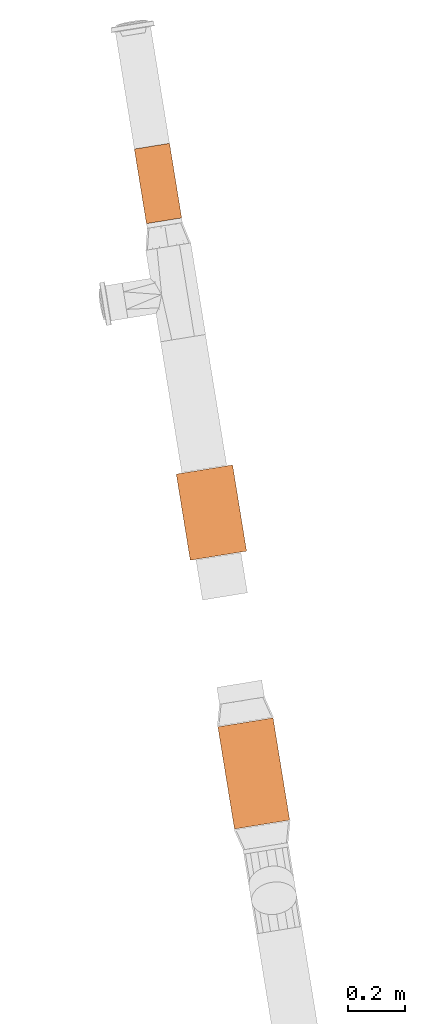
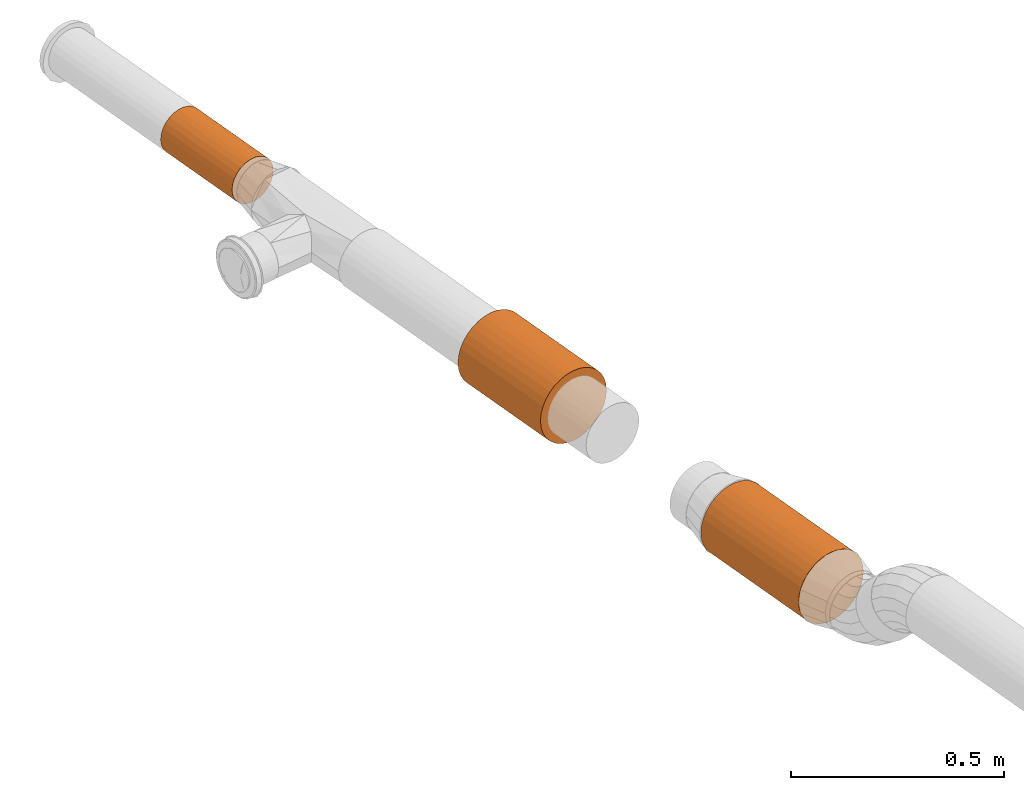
# One storey, part 6 of 6: 3 proxies.
"""IFC2X3 building model written with IfcOpenShell, lengths in millimetres."""

from ifc_helpers import new_model, entity, si_unit, converted_unit, derived_unit, direction, frame, frame_2d, origin, origin_with_axes, place, context, subcontext, project, spatial, circle, extrude, source, transform, mapped, material, type_object, element, save


model = new_model("IFC2X3")

# Units and contexts
plan_context = context("Plan", 3, precision=1e-05, world=origin_with_axes())
model_context = context("Model", 3, precision=0.01, world=origin(), true_north=direction((6.12323399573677e-17, 1.0)))
body_context = subcontext(model_context, "Body", "Model", "MODEL_VIEW")
ifc_project = project(units=[converted_unit("PLANEANGLEUNIT", "DEGREE", entity("IfcPositiveLengthMeasure", 0.0174532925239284), si_unit("PLANEANGLEUNIT", "RADIAN"), dimensions=[0, 0, 0, 0, 0, 0, 0]), si_unit("AREAUNIT", "SQUARE_METRE"), si_unit("LENGTHUNIT", "METRE", prefix="MILLI"), si_unit("MASSUNIT", "GRAM", prefix="KILO"), si_unit("POWERUNIT", "WATT"), si_unit("PRESSUREUNIT", "PASCAL", prefix="KILO"), si_unit("FORCEUNIT", "NEWTON", prefix="KILO"), si_unit("ELECTRICVOLTAGEUNIT", "VOLT"), si_unit("ELECTRICCURRENTUNIT", "AMPERE"), si_unit("THERMODYNAMICTEMPERATUREUNIT", "DEGREE_CELSIUS"), si_unit("TIMEUNIT", "SECOND"), si_unit("VOLUMEUNIT", "CUBIC_METRE"), derived_unit("LINEARVELOCITYUNIT", [(si_unit("LENGTHUNIT", "METRE"), 1), (si_unit("TIMEUNIT", "SECOND"), -1)]), derived_unit("VOLUMETRICFLOWRATEUNIT", [(si_unit("VOLUMEUNIT", "CUBIC_METRE"), 1), (si_unit("TIMEUNIT", "SECOND"), -1)]), derived_unit("THERMALTRANSMITTANCEUNIT", [(si_unit("POWERUNIT", "WATT"), 1), (si_unit("THERMODYNAMICTEMPERATUREUNIT", "KELVIN"), -1), (si_unit("AREAUNIT", "SQUARE_METRE"), -1)]), derived_unit("SOUNDPRESSUREUNIT", [(si_unit("PRESSUREUNIT", "PASCAL"), 1)])], contexts=[model_context, plan_context])

# Site, building, storey
site_placement = place(None, frame((-0.00071070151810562, 0.00438415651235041, 0.0), z_axis=(0.0, 0.0, 1.0), x_axis=(-0.160236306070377, 0.987078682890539, 0.0)))
site = spatial("IfcSite", under=ifc_project, at=site_placement, Name="Default", CompositionType="ELEMENT")
building_placement = place(site_placement, origin_with_axes())
building = spatial("IfcBuilding", under=site, at=building_placement, CompositionType="ELEMENT")
storey_placement = place(building_placement, frame((0.0, 0.0, 55630.0), z_axis=(0.0, 0.0, 1.0), x_axis=(1.0, 0.0, 0.0)))
storey = spatial("IfcBuildingStorey", under=building, at=storey_placement, Name="Nivå E", CompositionType="ELEMENT", Elevation=55630.0)

# Proxies
ifc_material = material(Name="<Unnamed>")
building_element_proxy_type_1 = type_object("IfcBuildingElementProxyType", Name="BRANNSPJELD -  - SZ011T:BRANNSPJELD -C-EI60-125 - SZ011T", PredefinedType="NOTDEFINED", material=ifc_material)
shared_shape_1 = source(origin(), body_context, "Body", "SweptSolid", [
    extrude(circle(Radius=62.4999999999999, at=frame_2d((3.44740902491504e-15, -1.00971535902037e-13), x_axis=(1.0, 0.0))), frame((-132.5, 0.0, 0.0), z_axis=(1.0, 0.0, 0.0), x_axis=(0.0, 1.0, 0.0)), (0.0, 0.0, 1.0), 265.0),
])
proxy_1_placement = place(storey_placement, frame((768932.619644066, -504762.771931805, 2400.0), z_axis=(0.0, 0.0, 1.0), x_axis=(-1.0, 0.0, 0.0)))
element("IfcBuildingElementProxy", 1, at=proxy_1_placement, inside=storey, type_object=building_element_proxy_type_1, material=ifc_material, Name="BRANNSPJELD -  - SZ011T:BRANNSPJELD -C-EI60-125 - SZ011T", ObjectType="BRANNSPJELD -  - SZ011T:BRANNSPJELD -C-EI60-125 - SZ011T", context=body_context, shape_type="MappedRepresentation", body=[
    mapped(shared_shape_1, transform((0.0, 0.0, 0.0), scale=1.0)),
])
building_element_proxy_type_2 = type_object("IfcBuildingElementProxyType", Name="BRANNSPJELD - 1 - SZ06T:BRANNSPJELD -C-EI120-200 - SZ06T", PredefinedType="NOTDEFINED", material=ifc_material)
shared_shape_2 = source(origin(), body_context, "Body", "SweptSolid", [
    extrude(circle(Radius=98.0000000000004, at=frame_2d((4.41595625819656e-15, -1.58323368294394e-13), x_axis=(1.0, 0.0))), frame((-181.5, 0.0, 0.0), z_axis=(1.0, 0.0, 0.0), x_axis=(0.0, 1.0, 0.0)), (0.0, 0.0, 1.0), 363.000000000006),
])
proxy_2_placement = place(storey_placement, frame((766837.619654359, -504762.771931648, 2400.0), z_axis=(0.0, 0.0, 1.0), x_axis=(1.0, 0.0, 0.0)))
element("IfcBuildingElementProxy", 2, at=proxy_2_placement, inside=storey, type_object=building_element_proxy_type_2, material=ifc_material, Name="BRANNSPJELD - 1 - SZ06T:BRANNSPJELD -C-EI120-200 - SZ06T", ObjectType="BRANNSPJELD - 1 - SZ06T:BRANNSPJELD -C-EI120-200 - SZ06T", context=body_context, shape_type="MappedRepresentation", body=[
    mapped(shared_shape_2, transform((0.0, 0.0, 0.0), scale=1.0)),
])
building_element_proxy_type_3 = type_object("IfcBuildingElementProxyType", Name="LYDDEMPER -  - QL004T:LYDDEMPER - 160-300 - QL004T", PredefinedType="NOTDEFINED", material=ifc_material)
shared_shape_3 = source(origin(), body_context, "Body", "SweptSolid", [
    extrude(circle(Radius=99.9999999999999, at=frame_2d((-4.09883246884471e-15, -1.61554457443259e-13), x_axis=(1.0, 0.0))), frame((-153.0, 0.0, 0.0), z_axis=(1.0, 0.0, 0.0), x_axis=(0.0, 0.0, 1.0)), (0.0, 0.0, 1.0), 306.0),
])
proxy_3_placement = place(storey_placement, frame((767763.882384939, -504762.771934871, 2400.0), z_axis=(0.0, 0.0, 1.0), x_axis=(1.0, 0.0, 0.0)))
element("IfcBuildingElementProxy", 3, at=proxy_3_placement, inside=storey, type_object=building_element_proxy_type_3, material=ifc_material, Name="LYDDEMPER -  - QL004T:LYDDEMPER - 160-300 - QL004T", ObjectType="LYDDEMPER -  - QL004T:LYDDEMPER - 160-300 - QL004T", context=body_context, shape_type="MappedRepresentation", body=[
    mapped(shared_shape_3, transform((0.0, 0.0, 0.0), scale=1.0)),
])

save(model, "model.ifc")
